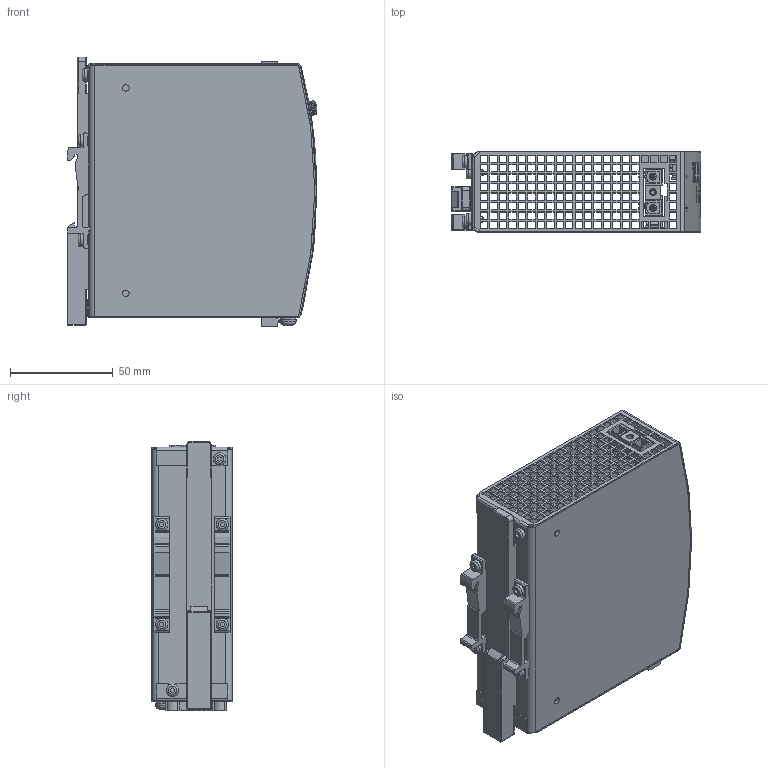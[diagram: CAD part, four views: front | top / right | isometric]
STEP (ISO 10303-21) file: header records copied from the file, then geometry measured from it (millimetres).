
FILE_DESCRIPTION(/* description */ ('HOUSING BODY','CAx-IF Rec.Pracs.---Representation and Presentation of Product Manufacturing Information (PMI)---3.8---2014-02-18'),/* implementation_level */ '2;1');
FILE_NAME(/* name */ 'L:\MKT-GER\Neue Webdokumente\Daten von KO\CP10.241-R2 (410.12)\md3_cp10_241-r2.stp',/* time_stamp */ '2017-08-22T09:09:42+02:00',/* author */ ('rahns'),/* organization */ (''),/* preprocessor_version */ 'ST-DEVELOPER v16.1',/* originating_system */ 'Autodesk Inventor 2016',/* authorisation */ '');
FILE_SCHEMA (('AP242_MANAGED_MODEL_BASED_3D_ENGINEERING_MIM_LF { 1 0 10303 442 1 1 4 }'));
Products named in the file (14): HOUSING BODY 410.00; HOUSING COVER 410.12; FRONTFOIL 410.12; MKT_SLIDER; MKT_SCREW 3x6; MKT_T HOLDER; MKT_SCREW 4x8; MKT_WASHER 4; MKT_LED GN; MKT_1X2A-H9; MKT_1X3A-47; MKT_1X2A-47; MKT_POTI COVER; 410.12
Assembly tree (19 placements, depth 2):
  410.12
    HOUSING BODY 410.00
    HOUSING COVER 410.12
    FRONTFOIL 410.12
    MKT_SLIDER
    MKT_SCREW 3x6  x6
    MKT_T HOLDER  x2
    MKT_SCREW 4x8
    MKT_WASHER 4
    MKT_LED GN
    MKT_1X2A-H9
    MKT_1X3A-47
    MKT_1X2A-47
    MKT_POTI COVER
Bounding box: 121.66 x 39 x 131.14 mm (x, y, z)
Volume: 72340 mm3; surface area: 108582.1 mm2
Topology: 20 solids, 20 shells, 2557 faces, 7215 edges, 4768 vertices
Faces by surface type: plane 2047, cylinder 248, bspline 169, cone 42, torus 38, sphere 13
Full cylindrical faces by diameter (mm): 0.2 x9, 2.013 x2, 2.45 x2, 2.7 x1, 3 x8, 3.1 x4, 3.2 x3, 3.621 x1, 4 x1, 4.355 x1, 4.5 x1, 4.6 x1, 6 x6
Entity records: 83607 total; most frequent: CARTESIAN_POINT 19659, ORIENTED_EDGE 13582, DIRECTION 11677, EDGE_CURVE 6791, LINE 5657, VECTOR 5657, VERTEX_POINT 4516, EDGE_LOOP 3177
